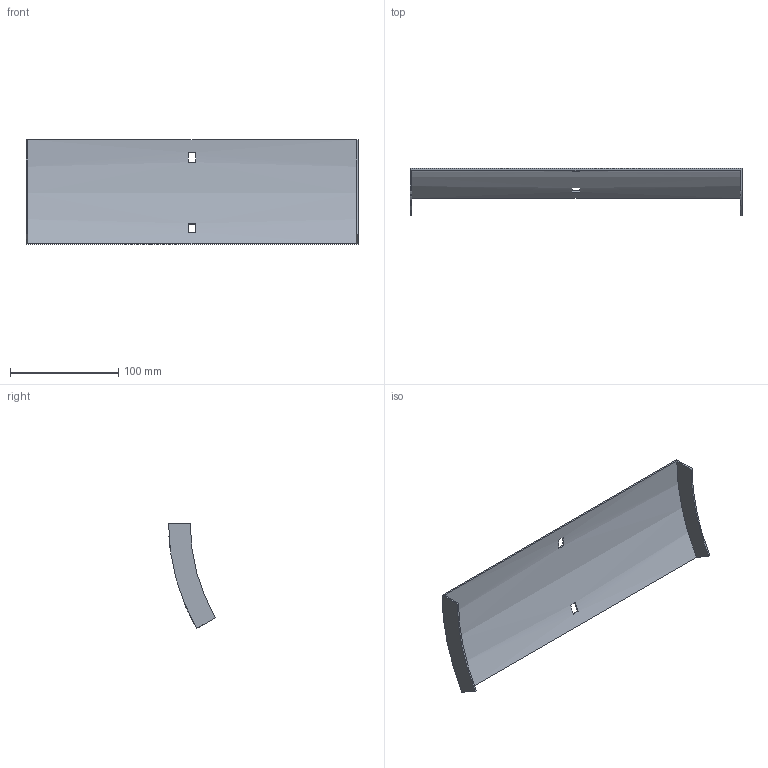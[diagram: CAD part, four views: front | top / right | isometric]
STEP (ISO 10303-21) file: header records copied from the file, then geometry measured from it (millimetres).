
FILE_DESCRIPTION (( 'STEP AP214' ), '1' );
FILE_NAME ('35N1I300.step', '2025-02-21T09:13:34', ( '' ), ( '' ), 'SwSTEP 2.0', 'SolidWorks 2023', '' );
FILE_SCHEMA (( 'AUTOMOTIVE_DESIGN' ));
Length unit declared in the file: millimetre
Products named in the file (1): 35N1I300
Bounding box: 307 x 43.31 x 97 mm (x, y, z)
Volume: 51744.9 mm3; surface area: 70393.1 mm2
Topology: 1 solids, 1 shells, 18 faces, 48 edges, 32 vertices
Faces by surface type: plane 14, cylinder 4
Entity records: 599 total; most frequent: DIRECTION 102, CARTESIAN_POINT 99, ORIENTED_EDGE 96, EDGE_CURVE 48, AXIS2_PLACEMENT_3D 35, VERTEX_POINT 32, VECTOR 32, LINE 32
